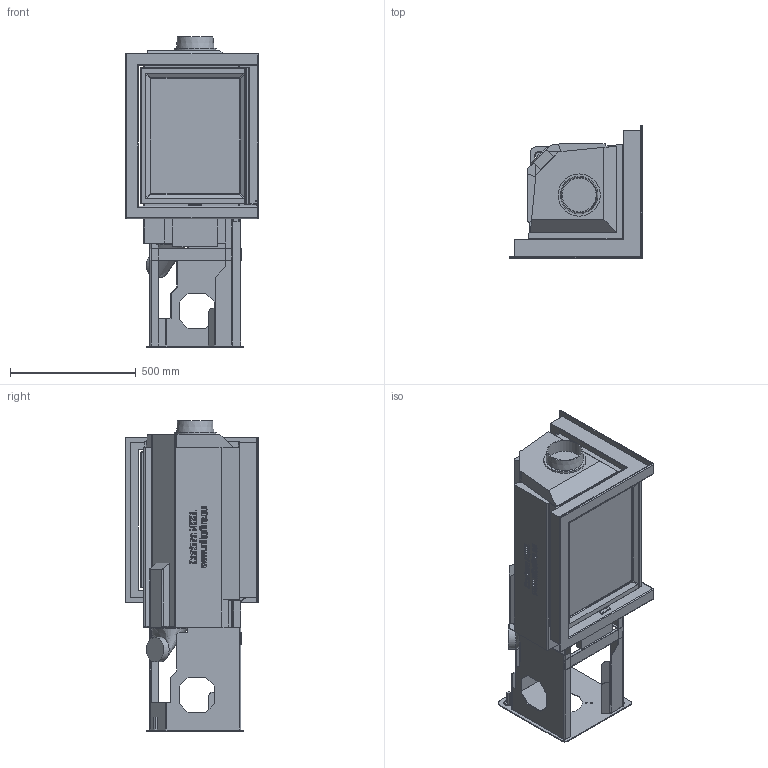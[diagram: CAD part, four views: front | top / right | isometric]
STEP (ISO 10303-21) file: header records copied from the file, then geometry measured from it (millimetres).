
FILE_DESCRIPTION(/* description */ ('Unknown'),/* implementation_level */ '2;1');
FILE_NAME(/* name */ 'Ci400L Insert Interior model',/* time_stamp */ '2026-08-14T11:33:40+02:00',/* author */ ('Unknown'),/* organization */ ('Unknown'),/* preprocessor_version */ 'ST-DEVELOPER v20',/* originating_system */ 'Solid Edge',/* authorisation */ 'Unknown');
FILE_SCHEMA (('AUTOMOTIVE_DESIGN {1 0 10303 214 3 1 1}'));
Products named in the file (6): DSN1152656; DSN1152293; DSN1152628; DSN1152548; DSN1152593; DSN1152653
Assembly tree (6 placements, depth 2):
  DSN1152656
    DSN1152293
    DSN1152628
    DSN1152548  x2
    DSN1152593
    DSN1152653
Bounding box: 528.5 x 528.5 x 1235 mm (x, y, z)
Volume: 107632989.1 mm3; surface area: 5742442.5 mm2
Topology: 8 solids, 8 shells, 1478 faces, 3862 edges, 2471 vertices
Faces by surface type: plane 984, cylinder 243, bspline 199, sphere 27, torus 24, cone 1
Full cylindrical faces by diameter (mm): 8 x2, 25 x2, 30 x4, 38 x4, 98 x1, 135.222 x1, 140 x1, 145.23 x1, 168 x1
Entity records: 64169 total; most frequent: CARTESIAN_POINT 21873, ORIENTED_EDGE 7584, DIRECTION 5824, EDGE_CURVE 3792, VERTEX_POINT 2453, LINE 2030, VECTOR 2030, AXIS2_PLACEMENT_3D 1897
